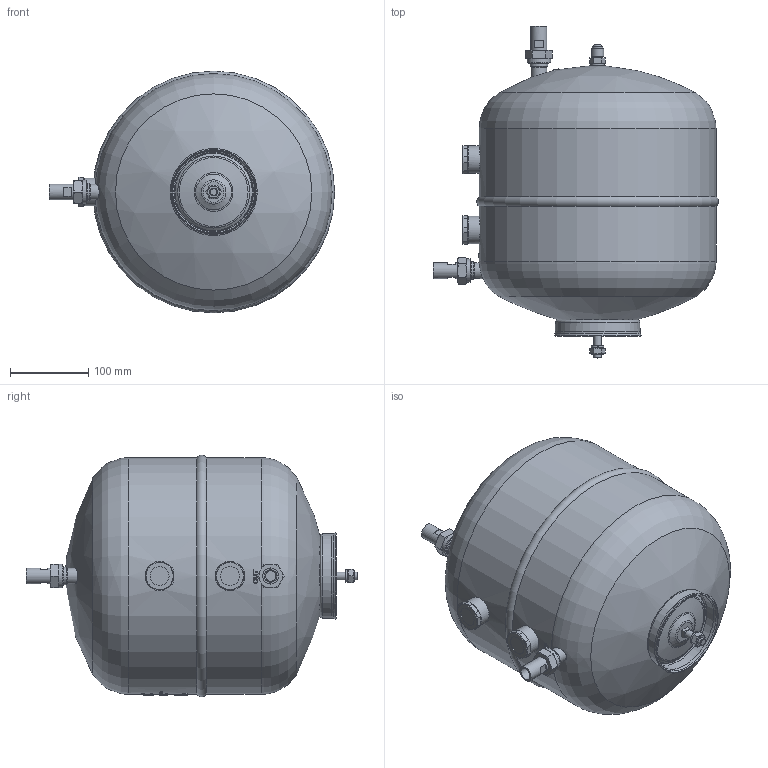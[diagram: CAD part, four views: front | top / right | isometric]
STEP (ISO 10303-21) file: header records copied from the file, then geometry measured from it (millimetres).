
FILE_DESCRIPTION(/* description */ (''),/* implementation_level */ '2;1');
FILE_NAME(/* name */ '\\SRV-DC1\Zentraledaten\Technik\ACAD\Arbeitsordner\Tran\Geräte\Flüssigkeitssammler\SGS-18-FL1\SGS-18-FL1.stp',/* time_stamp */ '2018-09-12T14:39:45+02:00',/* author */ ('Tran'),/* organization */ (''),/* preprocessor_version */ 'ST-DEVELOPER v16.1',/* originating_system */ 'Autodesk Inventor 2016',/* authorisation */ '');
FILE_SCHEMA (('AUTOMOTIVE_DESIGN { 1 0 10303 214 3 1 1 }'));
Length unit declared in the file: millimetre
Products named in the file (4): SGS-18-FL1_Rev.1_AG-Kunde; RN 1; LF-1-16; SGS-18-FL1_Rev.1_AG-Kunde_1
Assembly tree (5 placements, depth 2):
  SGS-18-FL1_Rev.1_AG-Kunde_1
    SGS-18-FL1_Rev.1_AG-Kunde
    RN 1  x2
    LF-1-16  x2
Bounding box: 363.67 x 423.43 x 308.44 mm (x, y, z)
Volume: 19959824.2 mm3; surface area: 416826.1 mm2
Topology: 5 solids, 5 shells, 1429 faces, 3738 edges, 2457 vertices
Faces by surface type: plane 756, bspline 406, cylinder 188, cone 58, torus 14, sphere 7
Full cylindrical faces by diameter (mm): 7.2 x1, 10 x2, 13.3 x2, 13.5 x4, 15.312 x1, 15.75 x2, 15.87 x2, 16.2 x2, 16.9 x2, 17 x1, 18.1 x2, 19.05 x2, 20 x2, 20.1 x2, 20.2 x1, 20.5 x2, 22.5 x4, 23.2 x2, 23.6 x2, 24.2 x2, 25.2 x2, 30 x2, 32.15 x2, 35 x2, 302 x2
Entity records: 51963 total; most frequent: CARTESIAN_POINT 19802, ORIENTED_EDGE 7142, DIRECTION 5628, EDGE_CURVE 3559, VERTEX_POINT 2390, AXIS2_PLACEMENT_3D 2001, LINE 1626, VECTOR 1626
